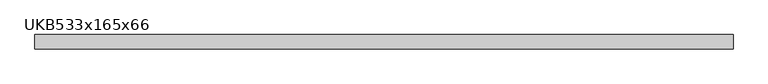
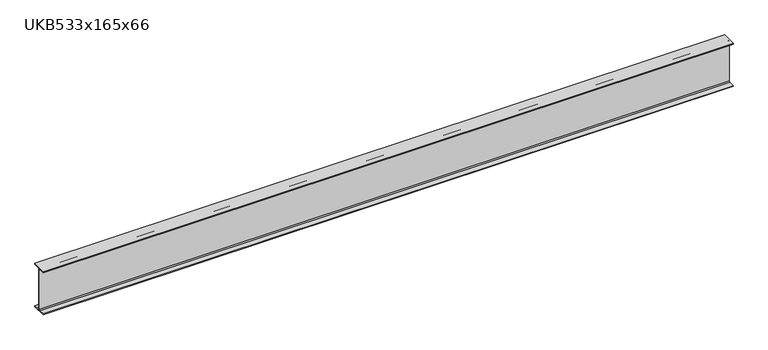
"""IFC4 building model written with IfcOpenShell, lengths in millimetres: beam geometry, UKB-UK Beams : UKB533x165x66."""

from ifc_helpers import new_model, si_unit, point, frame, frame_2d, origin, place, context, project, spatial, polyline, circle_curve, trimmed, segment, composite_curve, outline, extrude, source, transform, mapped, element, save


def ukb533x165x66_52ba2ece(model_context):
    return source(origin(), model_context, "Body", "SweptSolid", [
        extrude(outline(composite_curve([segment(polyline([(82.55, -250.95), (82.55, -262.35), (-82.55, -262.35), (-82.55, -250.95), (-17.15, -250.95)]), True, "CONTINUOUS"), segment(trimmed(circle_curve(frame_2d((-17.15, -238.25)), 12.7), [point((-17.15, -250.95))], [point((-4.45, -238.25))], True, "CARTESIAN"), True, "CONTINUOUS"), segment(polyline([(-4.45, -238.25), (-4.45, 238.25)]), True, "CONTINUOUS"), segment(trimmed(circle_curve(frame_2d((-17.15, 238.25)), 12.7), [point((-4.45, 238.25))], [point((-17.15, 250.95))], True, "CARTESIAN"), True, "CONTINUOUS"), segment(polyline([(-17.15, 250.95), (-82.55, 250.95), (-82.55, 262.35), (82.55, 262.35), (82.55, 250.95), (17.15, 250.95)]), True, "CONTINUOUS"), segment(trimmed(circle_curve(frame_2d((17.15, 238.25)), 12.7), [point((17.15, 250.95))], [point((4.45, 238.25))], True, "CARTESIAN"), True, "CONTINUOUS"), segment(polyline([(4.45, 238.25), (4.45, -238.25)]), True, "CONTINUOUS"), segment(trimmed(circle_curve(frame_2d((17.15, -238.25)), 12.7), [point((4.45, -238.25))], [point((17.15, -250.95))], True, "CARTESIAN"), True, "CONTINUOUS"), segment(polyline([(17.15, -250.95), (82.55, -250.95)]), True, "CONTINUOUS")], self_intersect=False)), frame((-3941.0, 0.0, 0.0), z_axis=(1.0, 0.0, 0.0), x_axis=(0.0, 1.0, 0.0)), (0.0, 0.0, 1.0), 7909.0),
    ])


if __name__ == "__main__":
    model = new_model("IFC4")
    model_context = context("Model", 3, world=origin())
    ifc_project = project(units=[si_unit("LENGTHUNIT", "METRE", prefix="MILLI")], contexts=[model_context])
    site = spatial("IfcSite", under=ifc_project)
    building = spatial("IfcBuilding", under=site)
    placement = place(None, origin())
    ukb533x165x66_shape = ukb533x165x66_52ba2ece(model_context)
    element("IfcBeam", 1, ObjectType="UKB-UK Beams : UKB533x165x66", at=placement, inside=building, context=model_context, shape_type="MappedRepresentation", body=[
        mapped(ukb533x165x66_shape, transform((0.0, 0.0, 0.0), x_axis=(1.0, 0.0, 0.0), y_axis=(0.0, 1.0, 0.0), z_axis=(0.0, 0.0, 1.0))),
    ])
    save(model, "model.ifc")
